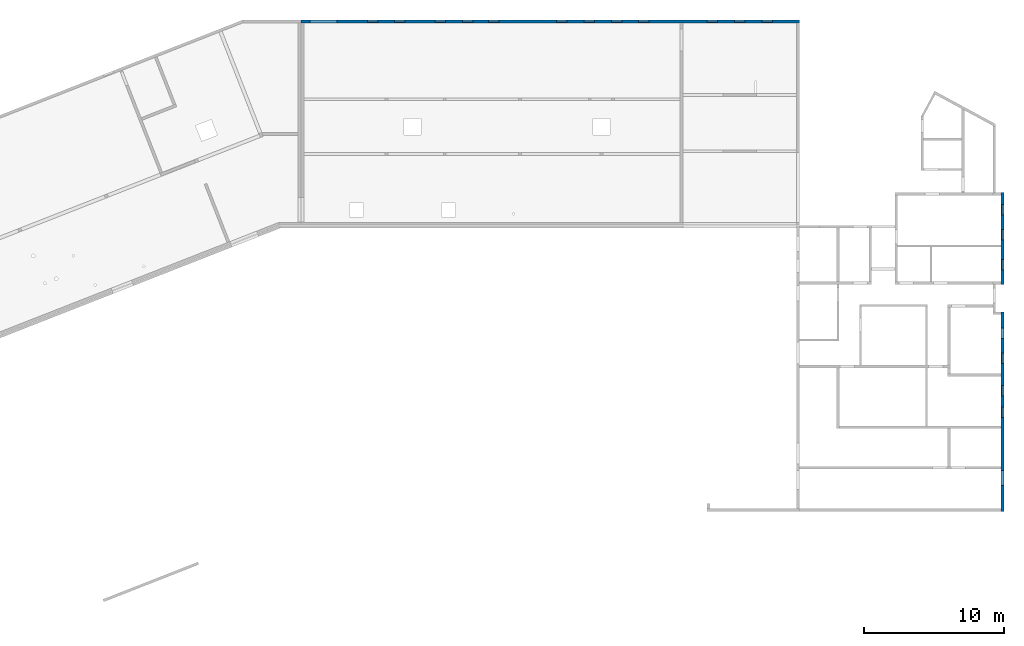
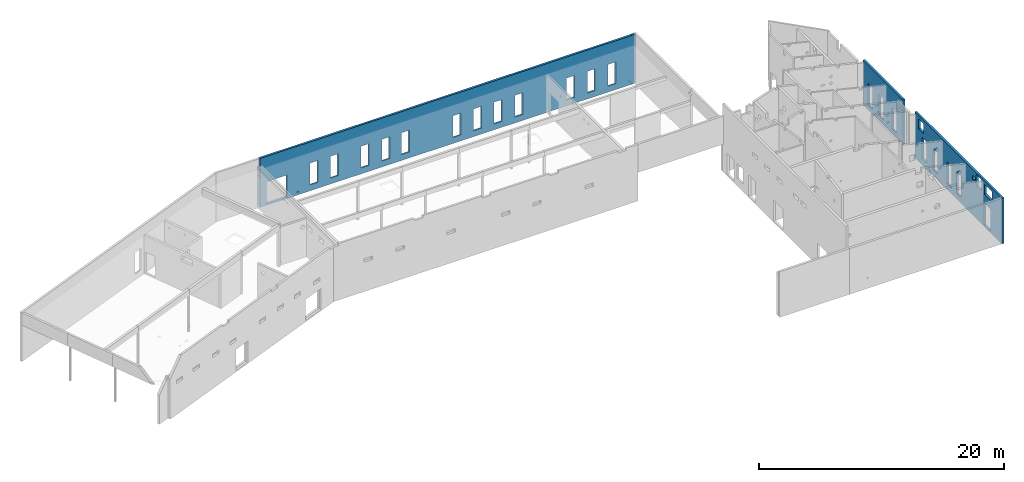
# One storey, part 13 of 13: 3 walls, 26 openings.
"""IFC2X3 building model written with IfcOpenShell, lengths in metres."""

from ifc_helpers import new_model, entity, si_unit, converted_unit, direction, frame, origin, origin_with_axes, place, context, subcontext, project, spatial, polyline, outline, extrude, faceted_brep, material, element, save


model = new_model("IFC2X3")

# Units and contexts
model_context = context("Model", 3, precision=1e-05, world=origin(), true_north=direction((-0.407059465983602, -0.913401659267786)))
body_context = subcontext(model_context, "Body", "Model", "MODEL_VIEW")
ifc_project = project(units=[si_unit("LENGTHUNIT", "METRE"), si_unit("AREAUNIT", "SQUARE_METRE"), si_unit("VOLUMEUNIT", "CUBIC_METRE"), si_unit("MASSUNIT", "GRAM", prefix="KILO"), converted_unit("PLANEANGLEUNIT", "DEGREE", entity("IfcPlaneAngleMeasure", 0.0174532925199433), si_unit("PLANEANGLEUNIT", "RADIAN"), dimensions=[0, 0, 0, 0, 0, 0, 0])], contexts=[model_context])

# Site, buildings, storey
site_placement = place(None, origin())
site = spatial("IfcSite", under=ifc_project, at=site_placement, Name="Site", CompositionType="ELEMENT")
building_1_placement = place(site_placement, origin())
building_1 = spatial("IfcBuilding", under=site, at=building_1_placement, Name="Site", CompositionType="COMPLEX")
building_2_placement = place(building_1_placement, origin())
building_2 = spatial("IfcBuilding", under=building_1, at=building_2_placement, Name="Bâtiments", CompositionType="ELEMENT")
storey_placement = place(building_2_placement, frame((0.0, 0.0, -0.14)))
storey = spatial("IfcBuildingStorey", under=building_2, at=storey_placement, Name="RDC", CompositionType="ELEMENT", Elevation=-0.14)

# Wall, openings
ifc_material_1 = material(Name="Béton")
wall_1_placement = place(storey_placement, frame((27.882644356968, 9.21038730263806, 0.0)))
wall_1 = element("IfcWall", 1, at=wall_1_placement, inside=storey, material=ifc_material_1, context=body_context, shape_type="Brep", body=[
    faceted_brep([(35.530745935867, 0.200000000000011, 0.02), (35.530745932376, 1.09139364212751e-14, 0.02), (35.530745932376, 1.09139364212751e-14, 4.9), (35.530745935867, 0.200000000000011, 4.9), (35.1108724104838, 1.09139364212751e-14, 4.9), (35.1108724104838, 0.200000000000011, 4.9), (35.1108724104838, 1.09139364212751e-14, 0.02), (35.1108724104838, 1.09139364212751e-14, 0.0), (4.66032252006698e-07, 0.0, 0.0), (4.66032252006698e-07, 0.0, 4.88), (35.1108724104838, 1.09139364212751e-14, 4.88), (35.1108724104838, 0.200000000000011, 4.88), (3.63797880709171e-15, 0.2, 4.88), (3.63797880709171e-15, 0.2, 0.0), (35.1108724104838, 0.200000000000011, 0.0), (35.1108724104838, 0.200000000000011, 0.02), (4.74131836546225, 0.200000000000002, 0.540000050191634), (4.74131836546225, 0.200000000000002, 0.59), (5.49131836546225, 0.200000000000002, 0.59), (5.49131836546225, 0.200000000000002, 0.540000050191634), (6.66487961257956, 0.200000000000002, 0.540000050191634), (6.66487961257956, 0.200000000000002, 0.59), (7.41487961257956, 0.200000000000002, 0.59), (7.41487961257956, 0.200000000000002, 0.540000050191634), (9.55763935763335, 0.200000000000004, 0.540000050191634), (9.55763935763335, 0.200000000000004, 0.59), (10.3076393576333, 0.200000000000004, 0.59), (10.3076393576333, 0.200000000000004, 0.540000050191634), (11.5073717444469, 0.200000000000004, 0.540000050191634), (11.5073717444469, 0.200000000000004, 0.59), (12.2573717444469, 0.200000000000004, 0.59), (12.2573717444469, 0.200000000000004, 0.540000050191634), (13.3556172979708, 0.200000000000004, 0.540000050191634), (13.3556172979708, 0.200000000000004, 0.59), (14.1056172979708, 0.200000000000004, 0.59), (14.1056172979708, 0.200000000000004, 0.540000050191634), (18.220609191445, 0.200000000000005, 0.540000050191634), (18.220609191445, 0.200000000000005, 0.59), (18.970609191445, 0.200000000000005, 0.59), (18.970609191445, 0.200000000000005, 0.540000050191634), (20.1710061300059, 0.200000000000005, 0.540000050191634), (20.1710061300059, 0.200000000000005, 0.59), (20.9210061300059, 0.200000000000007, 0.59), (20.9210061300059, 0.200000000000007, 0.540000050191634), (22.1209794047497, 0.200000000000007, 0.540000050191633), (22.1209794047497, 0.200000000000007, 0.59), (22.8709794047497, 0.200000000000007, 0.59), (22.8709794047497, 0.200000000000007, 0.540000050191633), (24.0710503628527, 0.200000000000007, 0.540000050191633), (24.0710503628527, 0.200000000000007, 0.59), (24.8210503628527, 0.200000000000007, 0.59), (24.8210503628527, 0.200000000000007, 0.540000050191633), (28.9571232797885, 0.200000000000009, 0.540000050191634), (28.9571232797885, 0.200000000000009, 0.59), (29.7071232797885, 0.200000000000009, 0.59), (29.7071232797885, 0.200000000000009, 0.540000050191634), (30.9072563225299, 0.200000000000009, 0.540000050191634), (30.9072563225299, 0.200000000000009, 0.59), (31.6572563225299, 0.200000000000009, 0.59), (31.6572563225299, 0.200000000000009, 0.540000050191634), (32.8573858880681, 0.200000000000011, 0.540000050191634), (32.8573858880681, 0.200000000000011, 0.59), (33.6073858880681, 0.200000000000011, 0.59), (33.6073858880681, 0.200000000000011, 0.540000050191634), (24.0710503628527, 0.0700000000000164, 0.59), (24.8210503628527, 0.0700000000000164, 0.59), (24.8210503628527, 0.0700000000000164, 0.550000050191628), (24.0710503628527, 0.0700000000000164, 0.550000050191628), (28.9571232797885, 0.07000000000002, 0.59), (29.7071232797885, 0.07000000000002, 0.59), (29.7071232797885, 0.07000000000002, 0.550000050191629), (28.9571232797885, 0.07000000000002, 0.550000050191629), (30.9072563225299, 0.0700000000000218, 0.59), (31.6572563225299, 0.0700000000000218, 0.59), (31.6572563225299, 0.0700000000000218, 0.550000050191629), (30.9072563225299, 0.0700000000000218, 0.550000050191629), (32.8573858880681, 0.0700000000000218, 0.59), (33.6073858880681, 0.0700000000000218, 0.59), (33.6073858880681, 0.0700000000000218, 0.550000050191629), (32.8573858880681, 0.0700000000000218, 0.550000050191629), (13.3556172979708, 0.0700000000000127, 0.59), (14.1056172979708, 0.0700000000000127, 0.59), (14.1056172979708, 0.0700000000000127, 0.550000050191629), (13.3556172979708, 0.0700000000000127, 0.550000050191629), (18.220609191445, 0.0700000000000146, 0.59), (18.970609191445, 0.0700000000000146, 0.59), (18.970609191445, 0.0700000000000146, 0.550000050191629), (18.220609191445, 0.0700000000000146, 0.550000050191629), (20.1710061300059, 0.0700000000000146, 0.59), (20.9210061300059, 0.0700000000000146, 0.59), (20.9210061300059, 0.0700000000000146, 0.550000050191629), (20.1710061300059, 0.0700000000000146, 0.550000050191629), (22.1209794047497, 0.0700000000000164, 0.59), (22.8709794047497, 0.0700000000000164, 0.59), (22.8709794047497, 0.0700000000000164, 0.550000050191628), (22.1209794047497, 0.0700000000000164, 0.550000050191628), (4.74131836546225, 0.0700000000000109, 0.59), (5.49131836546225, 0.0700000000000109, 0.59), (5.49131836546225, 0.0700000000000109, 0.550000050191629), (4.74131836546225, 0.0700000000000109, 0.550000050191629), (6.66487961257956, 0.0700000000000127, 0.59), (7.41487961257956, 0.0700000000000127, 0.59), (7.41487961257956, 0.0700000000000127, 0.550000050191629), (6.66487961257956, 0.0700000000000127, 0.550000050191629), (9.55763935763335, 0.0700000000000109, 0.59), (10.3076393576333, 0.0700000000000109, 0.59), (10.3076393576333, 0.0700000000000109, 0.550000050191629), (9.55763935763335, 0.0700000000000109, 0.550000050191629), (11.5073717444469, 0.0700000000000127, 0.59), (12.2573717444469, 0.0700000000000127, 0.59), (12.2573717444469, 0.0700000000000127, 0.550000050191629), (11.5073717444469, 0.0700000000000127, 0.550000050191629)], [[[0, 1, 2, 3]], [[4, 5, 3, 2]], [[1, 6, 7, 8, 9, 10, 4, 2]], [[0, 3, 5, 11, 12, 13, 14, 15], [16, 17, 18, 19], [20, 21, 22, 23], [24, 25, 26, 27], [28, 29, 30, 31], [32, 33, 34, 35], [36, 37, 38, 39], [40, 41, 42, 43], [44, 45, 46, 47], [48, 49, 50, 51], [52, 53, 54, 55], [56, 57, 58, 59], [60, 61, 62, 63]], [[5, 4, 10, 11]], [[15, 6, 1, 0]], [[50, 49, 64, 65]], [[66, 67, 48, 51]], [[65, 66, 51, 50]], [[49, 48, 67, 64]], [[64, 67, 66, 65]], [[54, 53, 68, 69]], [[70, 71, 52, 55]], [[69, 70, 55, 54]], [[53, 52, 71, 68]], [[68, 71, 70, 69]], [[58, 57, 72, 73]], [[74, 75, 56, 59]], [[73, 74, 59, 58]], [[57, 56, 75, 72]], [[72, 75, 74, 73]], [[62, 61, 76, 77]], [[78, 79, 60, 63]], [[77, 78, 63, 62]], [[61, 60, 79, 76]], [[76, 79, 78, 77]], [[34, 33, 80, 81]], [[82, 83, 32, 35]], [[81, 82, 35, 34]], [[33, 32, 83, 80]], [[80, 83, 82, 81]], [[38, 37, 84, 85]], [[86, 87, 36, 39]], [[85, 86, 39, 38]], [[37, 36, 87, 84]], [[84, 87, 86, 85]], [[42, 41, 88, 89]], [[90, 91, 40, 43]], [[89, 90, 43, 42]], [[41, 40, 91, 88]], [[88, 91, 90, 89]], [[46, 45, 92, 93]], [[94, 95, 44, 47]], [[93, 94, 47, 46]], [[45, 44, 95, 92]], [[92, 95, 94, 93]], [[18, 17, 96, 97]], [[98, 99, 16, 19]], [[97, 98, 19, 18]], [[17, 16, 99, 96]], [[96, 99, 98, 97]], [[22, 21, 100, 101]], [[102, 103, 20, 23]], [[101, 102, 23, 22]], [[21, 20, 103, 100]], [[100, 103, 102, 101]], [[26, 25, 104, 105]], [[106, 107, 24, 27]], [[105, 106, 27, 26]], [[25, 24, 107, 104]], [[104, 107, 106, 105]], [[30, 29, 108, 109]], [[110, 111, 28, 31]], [[109, 110, 31, 30]], [[29, 28, 111, 108]], [[108, 111, 110, 109]], [[8, 13, 12, 9]], [[14, 7, 6, 15]], [[10, 9, 12, 11]], [[8, 7, 14, 13]]], orient=[[False], [False], [False], [False, False, False, False, False, False, False, False, False, False, False, False, False], [False], [False], [False], [False], [False], [False], [False], [False], [False], [False], [False], [False], [False], [False], [False], [False], [False], [False], [False], [False], [False], [False], [False], [False], [False], [False], [False], [False], [False], [False], [False], [False], [False], [False], [False], [False], [False], [False], [False], [False], [False], [False], [False], [False], [False], [False], [False], [False], [False], [False], [False], [False], [False], [False], [False], [False], [False], [False], [False], [False], [False], [False], [False], [False], [False], [False]]),
])
opening_1_placement = place(wall_1_placement, frame((0.625004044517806, 0.0, 0.14), z_axis=(0.0, 1.0, 0.0), x_axis=(0.0, 0.0, 1.0)))
element("IfcOpeningElement", 2, at=opening_1_placement, cuts=wall_1, Name="Baie de porte", ObjectType="Opening", context=body_context, shape_type="SweptSolid", body=[
    extrude(outline(polyline([(0.0, 1.94), (2.2, 1.94), (2.2, 0.0), (0.0, 0.0), (0.0, 1.94)])), origin_with_axes(), (0.0, 0.0, 1.0), 0.2),
])
opening_2_placement = place(wall_1_placement, frame((32.8573858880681, 1.09139364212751e-14, 0.59), z_axis=(0.0, 1.0, 0.0), x_axis=(0.0, 0.0, 1.0)))
element("IfcOpeningElement", 3, at=opening_2_placement, cuts=wall_1, Name="Baie de fenêtre", ObjectType="Opening", context=body_context, shape_type="SweptSolid", body=[
    extrude(outline(polyline([(0.0, 0.75), (2.17, 0.75), (2.17, 0.0), (0.0, 0.0), (0.0, 0.75)])), origin_with_axes(), (0.0, 0.0, 1.0), 0.2),
])
opening_3_placement = place(wall_1_placement, frame((30.9072563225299, 1.09139364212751e-14, 0.59), z_axis=(0.0, 1.0, 0.0), x_axis=(0.0, 0.0, 1.0)))
element("IfcOpeningElement", 4, at=opening_3_placement, cuts=wall_1, Name="Baie de fenêtre", ObjectType="Opening", context=body_context, shape_type="SweptSolid", body=[
    extrude(outline(polyline([(0.0, 0.75), (2.17, 0.75), (2.17, 0.0), (0.0, 0.0), (0.0, 0.75)])), origin_with_axes(), (0.0, 0.0, 1.0), 0.2),
])
opening_4_placement = place(wall_1_placement, frame((28.9571232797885, 9.09494701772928e-15, 0.59), z_axis=(0.0, 1.0, 0.0), x_axis=(0.0, 0.0, 1.0)))
element("IfcOpeningElement", 5, at=opening_4_placement, cuts=wall_1, Name="Baie de fenêtre", ObjectType="Opening", context=body_context, shape_type="SweptSolid", body=[
    extrude(outline(polyline([(0.0, 0.75), (2.17, 0.75), (2.17, 0.0), (0.0, 0.0), (0.0, 0.75)])), origin_with_axes(), (0.0, 0.0, 1.0), 0.2),
])
opening_5_placement = place(wall_1_placement, frame((24.0710503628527, 7.27595761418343e-15, 0.59), z_axis=(0.0, 1.0, 0.0), x_axis=(0.0, 0.0, 1.0)))
element("IfcOpeningElement", 6, at=opening_5_placement, cuts=wall_1, Name="Baie de fenêtre", ObjectType="Opening", context=body_context, shape_type="SweptSolid", body=[
    extrude(outline(polyline([(0.0, 0.75), (2.17, 0.75), (2.17, 0.0), (0.0, 0.0), (0.0, 0.75)])), origin_with_axes(), (0.0, 0.0, 1.0), 0.2),
])
opening_6_placement = place(wall_1_placement, frame((22.1209794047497, 7.27595761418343e-15, 0.59), z_axis=(0.0, 1.0, 0.0), x_axis=(0.0, 0.0, 1.0)))
element("IfcOpeningElement", 7, at=opening_6_placement, cuts=wall_1, Name="Baie de fenêtre", ObjectType="Opening", context=body_context, shape_type="SweptSolid", body=[
    extrude(outline(polyline([(0.0, 0.75), (2.17, 0.75), (2.17, 0.0), (0.0, 0.0), (0.0, 0.75)])), origin_with_axes(), (0.0, 0.0, 1.0), 0.2),
])
opening_7_placement = place(wall_1_placement, frame((20.1710061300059, 7.27595761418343e-15, 0.59), z_axis=(0.0, 1.0, 0.0), x_axis=(0.0, 0.0, 1.0)))
element("IfcOpeningElement", 8, at=opening_7_placement, cuts=wall_1, Name="Baie de fenêtre", ObjectType="Opening", context=body_context, shape_type="SweptSolid", body=[
    extrude(outline(polyline([(0.0, 0.75), (2.17, 0.75), (2.17, 0.0), (0.0, 0.0), (0.0, 0.75)])), origin_with_axes(), (0.0, 0.0, 1.0), 0.199999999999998),
])
opening_8_placement = place(wall_1_placement, frame((18.220609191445, 7.27595761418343e-15, 0.59), z_axis=(0.0, 1.0, 0.0), x_axis=(0.0, 0.0, 1.0)))
element("IfcOpeningElement", 9, at=opening_8_placement, cuts=wall_1, Name="Baie de fenêtre", ObjectType="Opening", context=body_context, shape_type="SweptSolid", body=[
    extrude(outline(polyline([(0.0, 0.75), (2.17, 0.75), (2.17, 0.0), (0.0, 0.0), (0.0, 0.75)])), origin_with_axes(), (0.0, 0.0, 1.0), 0.199999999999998),
])
opening_9_placement = place(wall_1_placement, frame((13.3556172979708, 5.45696821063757e-15, 0.59), z_axis=(0.0, 1.0, 0.0), x_axis=(0.0, 0.0, 1.0)))
element("IfcOpeningElement", 10, at=opening_9_placement, cuts=wall_1, Name="Baie de fenêtre", ObjectType="Opening", context=body_context, shape_type="SweptSolid", body=[
    extrude(outline(polyline([(0.0, 0.75), (2.17, 0.75), (2.17, 0.0), (0.0, 0.0), (0.0, 0.75)])), origin_with_axes(), (0.0, 0.0, 1.0), 0.199999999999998),
])
opening_10_placement = place(wall_1_placement, frame((11.5073717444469, 5.45696821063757e-15, 0.59), z_axis=(0.0, 1.0, 0.0), x_axis=(0.0, 0.0, 1.0)))
element("IfcOpeningElement", 11, at=opening_10_placement, cuts=wall_1, Name="Baie de fenêtre", ObjectType="Opening", context=body_context, shape_type="SweptSolid", body=[
    extrude(outline(polyline([(0.0, 0.75), (2.17, 0.75), (2.17, 0.0), (0.0, 0.0), (0.0, 0.75)])), origin_with_axes(), (0.0, 0.0, 1.0), 0.199999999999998),
])
opening_11_placement = place(wall_1_placement, frame((9.55763935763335, 3.63797880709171e-15, 0.59), z_axis=(0.0, 1.0, 0.0), x_axis=(0.0, 0.0, 1.0)))
element("IfcOpeningElement", 12, at=opening_11_placement, cuts=wall_1, Name="Baie de fenêtre", ObjectType="Opening", context=body_context, shape_type="SweptSolid", body=[
    extrude(outline(polyline([(0.0, 0.75), (2.17, 0.75), (2.17, 0.0), (0.0, 0.0), (0.0, 0.75)])), origin_with_axes(), (0.0, 0.0, 1.0), 0.199999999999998),
])
opening_12_placement = place(wall_1_placement, frame((6.66487961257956, 5.45696821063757e-15, 0.59), z_axis=(0.0, 1.0, 0.0), x_axis=(0.0, 0.0, 1.0)))
element("IfcOpeningElement", 13, at=opening_12_placement, cuts=wall_1, Name="Baie de fenêtre", ObjectType="Opening", context=body_context, shape_type="SweptSolid", body=[
    extrude(outline(polyline([(0.0, 0.75), (2.17, 0.75), (2.17, 0.0), (0.0, 0.0), (0.0, 0.75)])), origin_with_axes(), (0.0, 0.0, 1.0), 0.199999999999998),
])
opening_13_placement = place(wall_1_placement, frame((4.74131836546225, 3.63797880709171e-15, 0.59), z_axis=(0.0, 1.0, 0.0), x_axis=(0.0, 0.0, 1.0)))
element("IfcOpeningElement", 14, at=opening_13_placement, cuts=wall_1, Name="Baie de fenêtre", ObjectType="Opening", context=body_context, shape_type="SweptSolid", body=[
    extrude(outline(polyline([(0.0, 0.75), (2.17, 0.75), (2.17, 0.0), (0.0, 0.0), (0.0, 0.75)])), origin_with_axes(), (0.0, 0.0, 1.0), 0.199999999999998),
])
opening_14_placement = place(wall_1_placement, frame((3.49263920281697, 1.81898940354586e-15, 0.24), z_axis=(0.0, 1.0, 0.0), x_axis=(0.0, 0.0, 1.0)))
element("IfcOpeningElement", 15, at=opening_14_placement, cuts=wall_1, Name="PB-RDC-1", ObjectType="Opening", context=body_context, shape_type="SweptSolid", body=[
    extrude(outline(polyline([(0.0, 0.2), (0.1, 0.2), (0.1, 0.0), (0.0, 0.0), (0.0, 0.2)])), origin_with_axes(), (0.0, 0.0, 1.0), 0.2),
])

ifc_material_2 = material(Name="Béton")
wall_2_placement = place(storey_placement, frame((77.8131086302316, -9.45749908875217, 0.12)))
wall_2 = element("IfcWall", 16, at=wall_2_placement, inside=storey, material=ifc_material_2, context=body_context, shape_type="Brep", body=[
    faceted_brep([(0.200002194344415, 4.97271918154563, 0.47), (0.200002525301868, 5.7227192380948, 0.47), (0.0700025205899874, 5.7227192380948, 0.47), (0.0700021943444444, 4.97271923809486, 0.47), (0.0700021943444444, 4.97271923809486, 0.430000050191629), (0.0700025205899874, 5.7227192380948, 0.430000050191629), (0.200002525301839, 5.72271918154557, 0.420000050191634), (0.200002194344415, 4.97271918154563, 0.420000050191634), (0.200001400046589, 3.17271918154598, 0.47), (0.200001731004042, 3.92271923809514, 0.47), (0.0700017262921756, 3.92271923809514, 0.47), (0.0700014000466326, 3.17271923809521, 0.47), (0.0700014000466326, 3.17271923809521, 0.43000005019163), (0.0700017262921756, 3.92271923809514, 0.43000005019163), (0.200001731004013, 3.92271918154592, 0.420000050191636), (0.200001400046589, 3.17271918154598, 0.420000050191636), (0.200000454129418, 1.02912662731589, 0.47), (0.200000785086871, 1.77912668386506, 0.47), (0.070000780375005, 1.77912668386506, 0.47), (0.070000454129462, 1.02912668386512, 0.47), (0.070000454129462, 1.02912668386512, 0.43000005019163), (0.070000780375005, 1.77912668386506, 0.43000005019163), (0.200000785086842, 1.77912662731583, 0.420000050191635), (0.200000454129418, 1.02912662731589, 0.420000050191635), (0.200002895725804, 6.56215634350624, 0.0), (0.199999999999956, 0.0, 0.0), (0.199999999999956, 0.0, 4.45922495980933), (0.200002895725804, 6.56215634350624, 4.45922495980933), (0.0, 6.52187700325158e-08, 0.0), (0.0, 6.52187700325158e-08, 4.45922495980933), (2.89572583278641e-06, 6.56215640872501, 0.0), (2.89572583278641e-06, 6.56215640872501, 4.45922495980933)], [[[0, 1, 2, 3]], [[4, 5, 6, 7]], [[3, 4, 7, 0]], [[1, 6, 5, 2]], [[2, 5, 4, 3]], [[8, 9, 10, 11]], [[12, 13, 14, 15]], [[11, 12, 15, 8]], [[9, 14, 13, 10]], [[10, 13, 12, 11]], [[16, 17, 18, 19]], [[20, 21, 22, 23]], [[19, 20, 23, 16]], [[17, 22, 21, 18]], [[18, 21, 20, 19]], [[24, 25, 26, 27], [6, 1, 0, 7], [14, 9, 8, 15], [22, 17, 16, 23]], [[25, 28, 29, 26]], [[28, 30, 31, 29]], [[30, 24, 27, 31]], [[31, 27, 26, 29]], [[24, 30, 28, 25]]], orient=[[False], [False], [False], [False], [False], [False], [False], [False], [False], [False], [False], [False], [False], [False], [False], [False, False, False, False], [False], [False], [False], [False], [False]]),
])
opening_15_placement = place(wall_2_placement, frame((2.52530188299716e-06, 5.72271926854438, 0.47), z_axis=(0.999999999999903, -4.41276565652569e-07, 0.0), x_axis=(0.0, 0.0, 1.0)))
element("IfcOpeningElement", 17, at=opening_15_placement, cuts=wall_2, Name="Baie de fenêtre", ObjectType="Opening", context=body_context, shape_type="SweptSolid", body=[
    extrude(outline(polyline([(0.0, 0.749999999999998), (2.17, 0.749999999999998), (2.17, 0.0), (0.0, 0.0), (0.0, 0.749999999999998)])), origin_with_axes(), (0.0, 0.0, 1.0), 0.199999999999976),
])
opening_16_placement = place(wall_2_placement, frame((1.73100407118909e-06, 3.92271926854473, 0.47), z_axis=(0.999999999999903, -4.41276565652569e-07, 0.0), x_axis=(0.0, 0.0, 1.0)))
element("IfcOpeningElement", 18, at=opening_16_placement, cuts=wall_2, Name="Baie de fenêtre", ObjectType="Opening", context=body_context, shape_type="SweptSolid", body=[
    extrude(outline(polyline([(0.0, 0.749999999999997), (2.17, 0.749999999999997), (2.17, 0.0), (0.0, 0.0), (0.0, 0.749999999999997)])), origin_with_axes(), (0.0, 0.0, 1.0), 0.199999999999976),
])
opening_17_placement = place(wall_2_placement, frame((7.8508690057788e-07, 1.77912671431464, 0.47), z_axis=(0.999999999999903, -4.41276565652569e-07, 0.0), x_axis=(0.0, 0.0, 1.0)))
element("IfcOpeningElement", 19, at=opening_17_placement, cuts=wall_2, Name="Baie de fenêtre", ObjectType="Opening", context=body_context, shape_type="SweptSolid", body=[
    extrude(outline(polyline([(0.0, 0.749999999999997), (2.17, 0.749999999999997), (2.17, 0.0), (0.0, 0.0), (0.0, 0.749999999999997)])), origin_with_axes(), (0.0, 0.0, 1.0), 0.199999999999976),
])

ifc_material_3 = material(Name="Béton")
wall_3_placement = place(storey_placement, frame((77.8131017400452, -25.6449283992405, 0.02)))
wall_3 = element("IfcWall", 20, at=wall_3_placement, inside=storey, material=ifc_material_3, context=body_context, shape_type="Brep", body=[
    faceted_brep([(0.070003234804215, 7.46217188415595, 0.57), (0.070003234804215, 7.46217188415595, 0.53000005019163), (0.0700029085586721, 6.71217188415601, 0.53000005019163), (0.0700029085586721, 6.71217188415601, 0.57), (0.0700039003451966, 8.99217197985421, 0.57), (0.0700039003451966, 8.99217197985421, 0.53000005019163), (0.0700035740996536, 8.24217197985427, 0.53000005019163), (0.0700035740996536, 8.24217197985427, 0.57), (0.0700049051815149, 11.3021719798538, 0.57), (0.0700049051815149, 11.3021719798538, 0.530000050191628), (0.070004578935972, 10.5521719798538, 0.530000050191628), (0.070004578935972, 10.5521719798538, 0.57), (0.0700053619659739, 12.3522654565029, 0.57), (0.0700053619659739, 12.3522654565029, 3.18000005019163), (0.0700056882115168, 13.1022654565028, 3.18000005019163), (0.0700056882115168, 13.1022654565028, 0.57), (0.20000323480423, 7.46217188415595, 0.57), (0.2000032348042, 7.46217182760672, 0.520000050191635), (0.200002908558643, 6.71217182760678, 0.57), (0.200002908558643, 6.71217182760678, 0.520000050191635), (0.200003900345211, 8.99217197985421, 0.57), (0.200003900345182, 8.99217192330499, 0.520000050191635), (0.200003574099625, 8.24217192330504, 0.57), (0.200003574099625, 8.24217192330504, 0.520000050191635), (0.200004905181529, 11.3021719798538, 0.57), (0.2000049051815, 11.3021719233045, 0.520000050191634), (0.200004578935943, 10.5521719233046, 0.57), (0.200004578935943, 10.5521719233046, 0.520000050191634), (0.200005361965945, 12.3522653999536, 0.57), (0.200005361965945, 12.3522653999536, 3.17000005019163), (0.200005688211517, 13.1022654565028, 0.57), (0.200005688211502, 13.1022653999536, 3.17000005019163), (6.18019411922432e-06, 14.2332753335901, 0.0), (0.20000618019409, 14.2332752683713, 0.0), (0.20000618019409, 14.2332752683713, 4.55922664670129), (6.18019411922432e-06, 14.2332753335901, 4.55922664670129), (0.199999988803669, 0.0, 4.55922664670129), (0.0390785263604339, 6.99998236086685e-08, 4.55922664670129), (1.11963308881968e-08, 0.0514780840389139, 4.55922664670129), (0.199999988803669, 0.0, 0.0), (0.0, 8.6998741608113e-08, 0.0), (0.0, 8.6998741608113e-08, 4.51012318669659), (0.0390785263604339, 6.99998236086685e-08, 4.51012318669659), (1.11963308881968e-08, 0.0514780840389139, 4.51012318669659)], [[[0, 1, 2, 3]], [[4, 5, 6, 7]], [[8, 9, 10, 11]], [[12, 13, 14, 15]], [[16, 17, 1, 0]], [[18, 16, 0, 3]], [[3, 2, 19, 18]], [[2, 1, 17, 19]], [[20, 21, 5, 4]], [[22, 20, 4, 7]], [[7, 6, 23, 22]], [[6, 5, 21, 23]], [[24, 25, 9, 8]], [[26, 24, 8, 11]], [[11, 10, 27, 26]], [[10, 9, 25, 27]], [[28, 29, 13, 12]], [[12, 15, 30, 28]], [[15, 14, 31, 30]], [[29, 31, 14, 13]], [[32, 33, 34, 35]], [[35, 34, 36, 37, 38]], [[39, 40, 41, 42, 37, 36]], [[43, 41, 40, 32, 35, 38]], [[38, 37, 42, 43]], [[33, 39, 36, 34], [29, 28, 30, 31], [25, 24, 26, 27], [21, 20, 22, 23], [17, 16, 18, 19]], [[33, 32, 40, 39]], [[41, 43, 42]]], orient=[[False], [False], [False], [False], [False], [False], [False], [False], [False], [False], [False], [False], [False], [False], [False], [False], [False], [False], [False], [False], [False], [False], [False], [False], [False], [False, False, False, False, False], [False], [False]]),
])
opening_18_placement = place(wall_3_placement, frame((1.23747067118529e-06, 2.8447989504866, 3.24), z_axis=(0.999999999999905, -4.34994090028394e-07, 0.0), x_axis=(0.0, 0.0, 1.0)))
element("IfcOpeningElement", 21, at=opening_18_placement, cuts=wall_3, Name="CVC-113", ObjectType="Opening", context=body_context, shape_type="SweptSolid", body=[
    extrude(outline(polyline([(0.0, 1.25), (1.0, 1.25), (1.0, 0.0), (0.0, 0.0), (0.0, 1.25)])), origin_with_axes(), (0.0, 0.0, 1.0), 0.199999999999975),
])
opening_19_placement = place(wall_3_placement, frame((1.82399869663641e-06, 4.19315770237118, 3.27), z_axis=(0.999999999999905, -4.349940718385e-07, 0.0), x_axis=(0.0, 0.0, 1.0)))
element("IfcOpeningElement", 22, at=opening_19_placement, cuts=wall_3, Name="CVC-114", ObjectType="Opening", context=body_context, shape_type="SweptSolid", body=[
    extrude(outline(polyline([(0.0, 0.849999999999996), (1.1, 0.849999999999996), (1.1, 0.0), (0.0, 0.0), (0.0, 0.849999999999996)])), origin_with_axes(), (0.0, 0.0, 1.0), 0.199999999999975),
])
opening_20_placement = place(wall_3_placement, frame((0.200002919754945, 6.71217182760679, 0.57), z_axis=(-0.999999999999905, 4.349940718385e-07, 0.0), x_axis=(0.0, 0.0, 1.0)))
element("IfcOpeningElement", 23, at=opening_20_placement, cuts=wall_3, Name="Baie de fenêtre", ObjectType="Opening", context=body_context, shape_type="SweptSolid", body=[
    extrude(outline(polyline([(0.0, 0.75), (2.17, 0.75), (2.17, 0.0), (0.0, 0.0), (0.0, 0.75)])), origin_with_axes(), (0.0, 0.0, 1.0), 0.199999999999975),
])
opening_21_placement = place(wall_3_placement, frame((3.91154152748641e-06, 8.9921720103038, 0.57), z_axis=(0.999999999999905, -4.349940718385e-07, 0.0), x_axis=(0.0, 0.0, 1.0)))
element("IfcOpeningElement", 24, at=opening_21_placement, cuts=wall_3, Name="Baie de fenêtre", ObjectType="Opening", context=body_context, shape_type="SweptSolid", body=[
    extrude(outline(polyline([(0.0, 0.749999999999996), (2.17, 0.749999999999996), (2.17, 0.0), (0.0, 0.0), (0.0, 0.749999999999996)])), origin_with_axes(), (0.0, 0.0, 1.0), 0.199999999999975),
])
opening_22_placement = place(wall_3_placement, frame((4.91637784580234e-06, 11.3021720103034, 0.57), z_axis=(0.999999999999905, -4.34994080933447e-07, 0.0), x_axis=(0.0, 0.0, 1.0)))
element("IfcOpeningElement", 25, at=opening_22_placement, cuts=wall_3, Name="Baie de fenêtre", ObjectType="Opening", context=body_context, shape_type="SweptSolid", body=[
    extrude(outline(polyline([(0.0, 0.749999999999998), (2.17, 0.749999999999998), (2.17, 0.0), (0.0, 0.0), (0.0, 0.749999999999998)])), origin_with_axes(), (0.0, 0.0, 1.0), 0.199999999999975),
])
opening_23_placement = place(wall_3_placement, frame((5.69940784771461e-06, 13.1022654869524, 0.57), z_axis=(0.999999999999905, -4.34994080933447e-07, 0.0), x_axis=(0.0, 0.0, 1.0)))
element("IfcOpeningElement", 26, at=opening_23_placement, cuts=wall_3, Name="Baie de fenêtre", ObjectType="Opening", context=body_context, shape_type="SweptSolid", body=[
    extrude(outline(polyline([(0.0, 0.749999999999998), (2.17, 0.749999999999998), (2.17, 0.0), (0.0, 0.0), (0.0, 0.749999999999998)])), origin_with_axes(), (0.0, 0.0, 1.0), 0.199999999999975),
])
opening_24_placement = place(wall_3_placement, frame((0.200005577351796, 12.8216729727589, 3.22), z_axis=(-0.999999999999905, 4.34994080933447e-07, 0.0), x_axis=(0.0, 0.0, 1.0)))
element("IfcOpeningElement", 27, at=opening_24_placement, cuts=wall_3, Name="CVC-116", ObjectType="Opening", context=body_context, shape_type="SweptSolid", body=[
    extrude(outline(polyline([(0.0, 0.85), (1.0, 0.85), (1.0, 0.0), (0.0, 0.0), (0.0, 0.85)])), origin_with_axes(), (0.0, 0.0, 1.0), 0.199999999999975),
])
opening_25_placement = place(wall_3_placement, frame((2.08499518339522e-06, 4.79315770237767, 3.52), z_axis=(0.999999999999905, -4.34994071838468e-07, 0.0), x_axis=(0.0, 0.0, 1.0)))
element("IfcOpeningElement", 28, at=opening_25_placement, cuts=wall_3, Name="CVC-115", ObjectType="Opening", context=body_context, shape_type="SweptSolid", body=[
    extrude(outline(polyline([(0.0, 0.4), (0.4, 0.4), (0.4, 0.0), (0.0, 0.0), (0.0, 0.4)])), origin_with_axes(), (0.0, 0.0, 1.0), 0.19999999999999),
])
opening_26_placement = place(wall_3_placement, frame((1.26885282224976e-06, 2.91694283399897, 0.12), z_axis=(0.999999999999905, -4.349940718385e-07, 0.0), x_axis=(0.0, 0.0, 1.0)))
element("IfcOpeningElement", 29, at=opening_26_placement, cuts=wall_3, Name="Baie de porte", ObjectType="Opening", context=body_context, shape_type="SweptSolid", body=[
    extrude(outline(polyline([(0.0, 1.08), (2.2, 1.08), (2.2, 0.0), (0.0, 0.0), (0.0, 1.08)])), origin_with_axes(), (0.0, 0.0, 1.0), 0.199999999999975),
])

save(model, "model.ifc")
